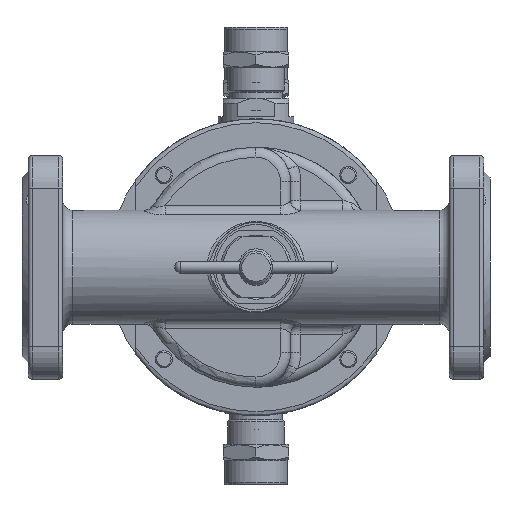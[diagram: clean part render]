
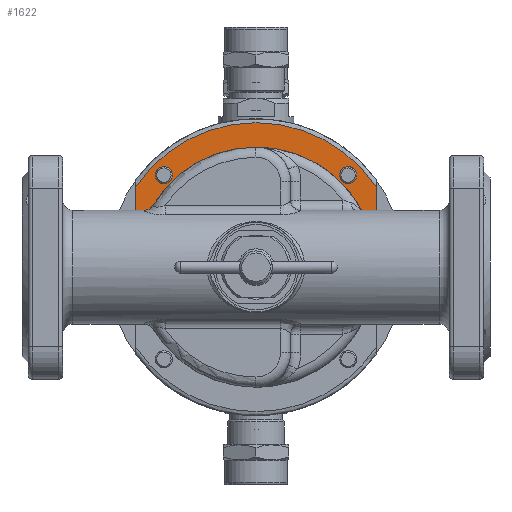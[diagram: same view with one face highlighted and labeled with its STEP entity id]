
A CAD part, front view. The second image highlights one B-rep face of the part: STEP entity #1622.
In plain terms, the highlighted planar face has unit normal (0, -1, 0).
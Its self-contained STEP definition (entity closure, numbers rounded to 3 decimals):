
#1622=ADVANCED_FACE('',(#17903,#17905,#17907),#17909,.F.);
#17903=FACE_BOUND('',#17904,.T.);
#17904=EDGE_LOOP('',(#31534));
#17905=FACE_BOUND('',#17906,.T.);
#17906=EDGE_LOOP('',(#31535));
#17907=FACE_OUTER_BOUND('',#17908,.T.);
#17908=EDGE_LOOP('',(#31536,#31537,#31538,#31539));
#17909=PLANE('',#17910);
#17910=AXIS2_PLACEMENT_3D('',#17911,#17912,#17913);
#17911=CARTESIAN_POINT('',(0.,39.5,0.));
#17912=DIRECTION('',(0.,1.,0.));
#17913=DIRECTION('',(-1.,0.,0.));
#31534=ORIENTED_EDGE('',*,*,#39906,.T.);
#31535=ORIENTED_EDGE('',*,*,#39907,.T.);
#31536=ORIENTED_EDGE('',*,*,#39905,.F.);
#31537=ORIENTED_EDGE('',*,*,#39854,.F.);
#31538=ORIENTED_EDGE('',*,*,#39908,.F.);
#31539=ORIENTED_EDGE('',*,*,#39846,.F.);
#39846=EDGE_CURVE('',#47864,#47866,#47867,.T.);
#39854=EDGE_CURVE('',#47878,#47880,#47881,.T.);
#39905=EDGE_CURVE('',#47880,#47864,#47967,.T.);
#39906=EDGE_CURVE('',#47968,#47968,#47969,.T.);
#39907=EDGE_CURVE('',#47970,#47970,#47971,.T.);
#39908=EDGE_CURVE('',#47866,#47878,#47972,.T.);
#47864=VERTEX_POINT('',#71884);
#47866=VERTEX_POINT('',#71940);
#47867=LINE('',#71941,#71942);
#47878=VERTEX_POINT('',#72071);
#47880=VERTEX_POINT('',#72075);
#47881=LINE('',#72076,#72077);
#47967=CIRCLE('',#72989,71.);
#47968=VERTEX_POINT('',#72993);
#47969=CIRCLE('',#72994,4.188);
#47970=VERTEX_POINT('',#72998);
#47971=CIRCLE('',#72999,4.188);
#47972=CIRCLE('',#73003,59.);
#71884=CARTESIAN_POINT('',(59.,39.5,39.497));
#71940=CARTESIAN_POINT('',(59.,39.5,0.));
#71941=CARTESIAN_POINT('',(59.,39.5,39.497));
#71942=VECTOR('',#71943,1.);
#71943=DIRECTION('',(0.,0.,-1.));
#72071=CARTESIAN_POINT('',(-59.,39.5,0.));
#72075=CARTESIAN_POINT('',(-59.,39.5,39.497));
#72076=CARTESIAN_POINT('',(-59.,39.5,0.));
#72077=VECTOR('',#72078,1.);
#72078=DIRECTION('',(0.,0.,1.));
#72989=AXIS2_PLACEMENT_3D('',#72990,#72991,#72992);
#72990=CARTESIAN_POINT('',(0.,39.5,0.));
#72991=DIRECTION('',(0.,1.,0.));
#72992=DIRECTION('',(-0.831,0.,0.556));
#72993=CARTESIAN_POINT('',(41.067,39.5,45.255));
#72994=AXIS2_PLACEMENT_3D('',#72995,#72996,#72997);
#72995=CARTESIAN_POINT('',(45.255,39.5,45.255));
#72996=DIRECTION('',(0.,1.,0.));
#72997=DIRECTION('',(-1.,0.,0.));
#72998=CARTESIAN_POINT('',(-49.443,39.5,45.255));
#72999=AXIS2_PLACEMENT_3D('',#73000,#73001,#73002);
#73000=CARTESIAN_POINT('',(-45.255,39.5,45.255));
#73001=DIRECTION('',(0.,1.,0.));
#73002=DIRECTION('',(-1.,0.,0.));
#73003=AXIS2_PLACEMENT_3D('',#73004,#73005,#73006);
#73004=CARTESIAN_POINT('',(0.,39.5,0.));
#73005=DIRECTION('',(0.,-1.,0.));
#73006=DIRECTION('',(1.,0.,0.));
